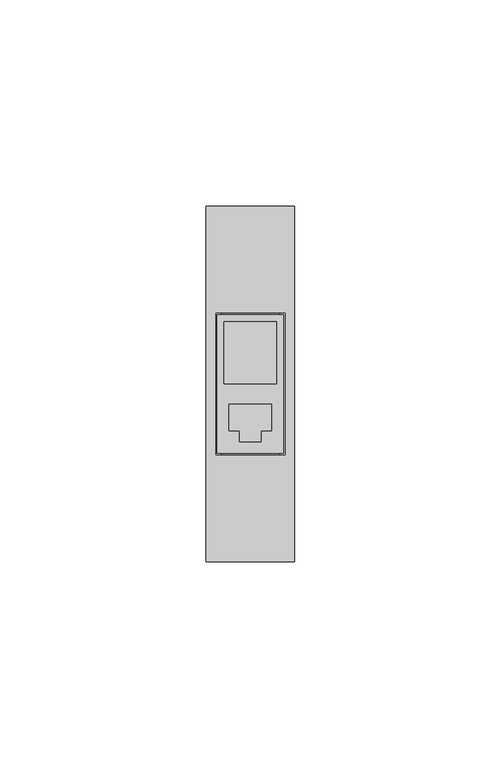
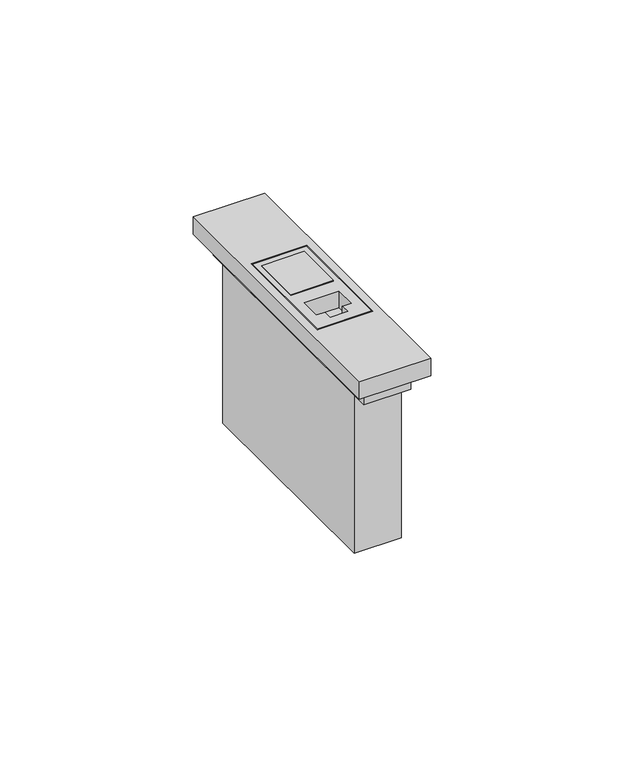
"""IFC4 building model written with IfcOpenShell, lengths in millimetres: electric appliance geometry, BT_LN-PresaRJ11 : Presa RJ11 - Art. KM4258RJ11 - 1M - Cover Sabbia."""

from ifc_helpers import new_model, si_unit, frame, origin, origin_with_axes, place, context, project, spatial, polyline, outline, extrude, source, transform, mapped, element, save


def electric_appliance_2f5c1887(model_context):
    return source(origin(), model_context, "Body", "SweptSolid", [
        extrude(outline(polyline([(-7.0, 39.0), (7.0, 39.0), (7.0, -39.0), (-7.0, -39.0), (-7.0, 39.0)])), frame((0.0, 0.0, 50.0), z_axis=(0.0, 0.0, 1.0), x_axis=(1.0, 0.0, 0.0)), (0.0, 0.0, 1.0), 5.5),
        extrude(outline(polyline([(-7.0, 34.0), (7.0, 34.0), (7.0, -34.0), (-7.0, -34.0), (-7.0, 34.0)])), origin_with_axes(), (0.0, 0.0, 1.0), 50.0),
        extrude(outline(polyline([(-6.3433174, 15.1017303), (6.3433174, 15.1017303), (6.3433174, 0.0), (-6.3433174, 0.0), (-6.3433174, 15.1017303)])), frame((0.0, 0.0, 55.5), z_axis=(0.0, 0.0, 1.0), x_axis=(1.0, 0.0, 0.0)), (0.0, 0.0, 1.0), 5.5),
        extrude(outline(polyline([(-8.0433174, 16.8017303), (8.0433174, 16.8017303), (8.0433174, -16.8017303), (-8.0433174, -16.8017303), (-8.0433174, 16.8017303)]), holes=[polyline([(-6.3433174, 15.1017303), (-6.3433174, 0.0), (6.3433174, 0.0), (6.3433174, 15.1017303), (-6.3433174, 15.1017303)]), polyline([(5.1729891, -4.9397585), (-5.1729891, -4.9397585), (-5.1729891, -11.2922681), (-2.5745674, -11.2922681), (-2.5745674, -13.9488138), (2.5745674, -13.9488138), (2.5745674, -11.2922681), (5.1729891, -11.2922681), (5.1729891, -4.9397585)])]), frame((0.0, 0.0, 55.5), z_axis=(0.0, 0.0, 1.0), x_axis=(1.0, 0.0, 0.0)), (0.0, 0.0, 1.0), 5.5),
        extrude(outline(polyline([(-10.7, -43.0), (-10.7, 43.0), (10.7, 43.0), (10.7, -43.0), (-10.7, -43.0)]), holes=[polyline([(-8.3433174, -17.1017303), (8.3433174, -17.1017303), (8.3433174, 17.1017303), (-8.3433174, 17.1017303), (-8.3433174, -17.1017303)])]), frame((0.0, 0.0, 55.5), z_axis=(0.0, 0.0, 1.0), x_axis=(1.0, 0.0, 0.0)), (0.0, 0.0, 1.0), 5.5),
    ])


if __name__ == "__main__":
    model = new_model("IFC4")
    model_context = context("Model", 3, world=origin())
    ifc_project = project(units=[si_unit("LENGTHUNIT", "METRE", prefix="MILLI")], contexts=[model_context])
    site = spatial("IfcSite", under=ifc_project)
    building = spatial("IfcBuilding", under=site)
    placement = place(None, origin())
    electric_appliance_shape = electric_appliance_2f5c1887(model_context)
    element("IfcElectricAppliance", 1, ObjectType="BT_LN-PresaRJ11 : Presa RJ11 - Art. KM4258RJ11 - 1M - Cover Sabbia", at=placement, inside=building, context=model_context, shape_type="MappedRepresentation", body=[
        mapped(electric_appliance_shape, transform((0.0, 0.0, 0.0), x_axis=(1.0, 0.0, 0.0), y_axis=(0.0, 1.0, 0.0), z_axis=(0.0, 0.0, 1.0))),
    ])
    save(model, "model.ifc")
